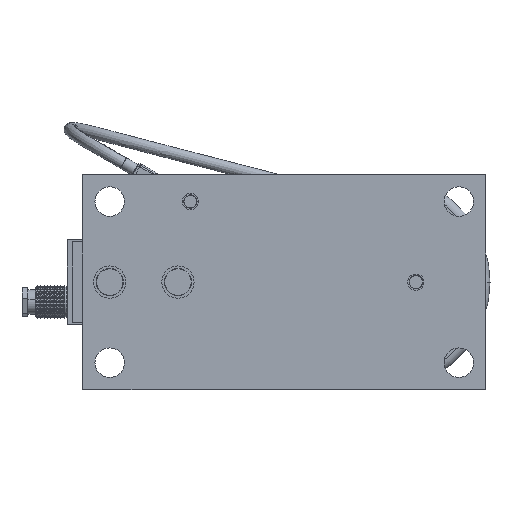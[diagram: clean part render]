
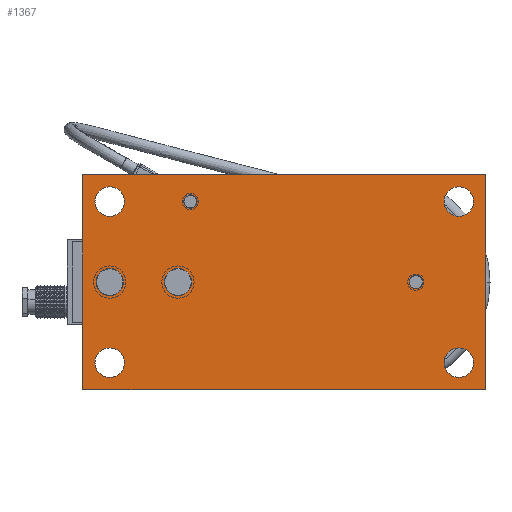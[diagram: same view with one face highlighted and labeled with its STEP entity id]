
A CAD part, front view. The second image highlights one B-rep face of the part: STEP entity #1367.
In plain terms, the highlighted planar face has unit normal (0, -1, 0) as drawn and (0, 0, -1) by its records, which use the part's own axes.
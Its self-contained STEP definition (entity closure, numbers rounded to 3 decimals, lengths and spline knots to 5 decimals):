
#1367=ADVANCED_FACE('0:4733',(#2804,#2805,#2806,#2807,#2808,#2809,#2810,#2811,#2812),#2813,.F.);
#2804=FACE_OUTER_BOUND('',#20180,.T.);
#2805=FACE_BOUND('',#20181,.T.);
#2806=FACE_BOUND('',#20182,.T.);
#2807=FACE_BOUND('',#20183,.T.);
#2808=FACE_BOUND('',#20184,.T.);
#2809=FACE_BOUND('',#20185,.T.);
#2810=FACE_BOUND('',#20186,.T.);
#2811=FACE_BOUND('',#20187,.T.);
#2812=FACE_BOUND('',#20188,.T.);
#2813=PLANE('',#20189);
#20180=EDGE_LOOP('',(#25287,#25288,#25289,#25290));
#20181=EDGE_LOOP('',(#25291,#25292));
#20182=EDGE_LOOP('',(#25293,#25294));
#20183=EDGE_LOOP('',(#25295,#25296));
#20184=EDGE_LOOP('',(#25297,#25298));
#20185=EDGE_LOOP('',(#25299,#25300));
#20186=EDGE_LOOP('',(#25301,#25302));
#20187=EDGE_LOOP('',(#25303,#25304));
#20188=EDGE_LOOP('',(#25305,#25306));
#20189=AXIS2_PLACEMENT_3D('',#25307,#25308,#25309);
#25287=ORIENTED_EDGE('',*,*,#27161,.T.);
#25288=ORIENTED_EDGE('',*,*,#27162,.T.);
#25289=ORIENTED_EDGE('',*,*,#27163,.T.);
#25290=ORIENTED_EDGE('',*,*,#27164,.T.);
#25291=ORIENTED_EDGE('',*,*,#27145,.T.);
#25292=ORIENTED_EDGE('',*,*,#27144,.T.);
#25293=ORIENTED_EDGE('',*,*,#27147,.T.);
#25294=ORIENTED_EDGE('',*,*,#27140,.T.);
#25295=ORIENTED_EDGE('',*,*,#27159,.T.);
#25296=ORIENTED_EDGE('',*,*,#27116,.T.);
#25297=ORIENTED_EDGE('',*,*,#27149,.T.);
#25298=ORIENTED_EDGE('',*,*,#27136,.T.);
#25299=ORIENTED_EDGE('',*,*,#27152,.F.);
#25300=ORIENTED_EDGE('',*,*,#27130,.F.);
#25301=ORIENTED_EDGE('',*,*,#27156,.F.);
#25302=ORIENTED_EDGE('',*,*,#27122,.F.);
#25303=ORIENTED_EDGE('',*,*,#27154,.F.);
#25304=ORIENTED_EDGE('',*,*,#27126,.F.);
#25305=ORIENTED_EDGE('',*,*,#27158,.F.);
#25306=ORIENTED_EDGE('',*,*,#27118,.F.);
#25307=CARTESIAN_POINT('',(0.0,0.0,0.0));
#25308=DIRECTION('',(0.0,0.0,1.0));
#25309=DIRECTION('',(1.0,0.0,0.0));
#27116=EDGE_CURVE('0:4796',#29817,#29821,#29823,.F.);
#27118=EDGE_CURVE('0:4787',#29824,#29827,#29828,.F.);
#27122=EDGE_CURVE('0:4781',#29832,#29835,#29836,.F.);
#27126=EDGE_CURVE('0:4775',#29840,#29843,#29844,.F.);
#27130=EDGE_CURVE('0:4769',#29848,#29851,#29852,.F.);
#27136=EDGE_CURVE('0:4766',#29857,#29861,#29863,.F.);
#27140=EDGE_CURVE('0:4760',#29865,#29869,#29871,.F.);
#27144=EDGE_CURVE('0:4754',#29873,#29877,#29879,.F.);
#27145=EDGE_CURVE('0:4754',#29877,#29873,#29880,.F.);
#27147=EDGE_CURVE('0:4760',#29869,#29865,#29882,.F.);
#27149=EDGE_CURVE('0:4766',#29861,#29857,#29884,.F.);
#27152=EDGE_CURVE('0:4769',#29851,#29848,#29887,.F.);
#27154=EDGE_CURVE('0:4775',#29843,#29840,#29889,.F.);
#27156=EDGE_CURVE('0:4781',#29835,#29832,#29891,.F.);
#27158=EDGE_CURVE('0:4787',#29827,#29824,#29893,.F.);
#27159=EDGE_CURVE('0:4796',#29821,#29817,#29894,.F.);
#27161=EDGE_CURVE('0:4799',#29896,#29897,#29898,.T.);
#27162=EDGE_CURVE('0:4802',#29897,#29899,#29900,.T.);
#27163=EDGE_CURVE('0:4805',#29899,#29901,#29902,.T.);
#27164=EDGE_CURVE('0:4808',#29901,#29896,#29903,.T.);
#29817=VERTEX_POINT('',#244597);
#29821=VERTEX_POINT('',#244602);
#29823=CIRCLE('',#244605,0.0025);
#29824=VERTEX_POINT('',#244606);
#29827=VERTEX_POINT('',#244610);
#29828=CIRCLE('',#244611,0.0055);
#29832=VERTEX_POINT('',#244616);
#29835=VERTEX_POINT('',#244620);
#29836=CIRCLE('',#244621,0.0055);
#29840=VERTEX_POINT('',#244626);
#29843=VERTEX_POINT('',#244630);
#29844=CIRCLE('',#244631,0.0055);
#29848=VERTEX_POINT('',#244636);
#29851=VERTEX_POINT('',#244640);
#29852=CIRCLE('',#244641,0.0055);
#29857=VERTEX_POINT('',#244647);
#29861=VERTEX_POINT('',#244652);
#29863=CIRCLE('',#244655,0.0025);
#29865=VERTEX_POINT('',#244657);
#29869=VERTEX_POINT('',#244662);
#29871=CIRCLE('',#244665,0.0051);
#29873=VERTEX_POINT('',#244667);
#29877=VERTEX_POINT('',#244672);
#29879=CIRCLE('',#244675,0.0051);
#29880=CIRCLE('',#244676,0.0051);
#29882=CIRCLE('',#244678,0.0051);
#29884=CIRCLE('',#244680,0.0025);
#29887=CIRCLE('',#244683,0.0055);
#29889=CIRCLE('',#244685,0.0055);
#29891=CIRCLE('',#244687,0.0055);
#29893=CIRCLE('',#244689,0.0055);
#29894=CIRCLE('',#244690,0.0025);
#29896=VERTEX_POINT('',#244692);
#29897=VERTEX_POINT('',#244693);
#29898=LINE('',#244694,#244695);
#29899=VERTEX_POINT('',#244696);
#29900=LINE('',#244697,#244698);
#29901=VERTEX_POINT('',#244699);
#29902=LINE('',#244700,#244701);
#29903=LINE('',#244702,#244703);
#244597=CARTESIAN_POINT('',(0.0465,0.,0.0));
#244602=CARTESIAN_POINT('',(0.0515,0.,0.0));
#244605=AXIS2_PLACEMENT_3D('',#247467,#247468,#247469);
#244606=CARTESIAN_POINT('',(0.0705,0.03,0.0));
#244610=CARTESIAN_POINT('',(0.0595,0.03,0.0));
#244611=AXIS2_PLACEMENT_3D('',#247471,#247472,#247473);
#244616=CARTESIAN_POINT('',(-0.0595,0.03,0.0));
#244620=CARTESIAN_POINT('',(-0.0705,0.03,0.0));
#244621=AXIS2_PLACEMENT_3D('',#247479,#247480,#247481);
#244626=CARTESIAN_POINT('',(-0.0595,-0.03,0.0));
#244630=CARTESIAN_POINT('',(-0.0705,-0.03,0.0));
#244631=AXIS2_PLACEMENT_3D('',#247487,#247488,#247489);
#244636=CARTESIAN_POINT('',(0.0705,-0.03,0.0));
#244640=CARTESIAN_POINT('',(0.0595,-0.03,0.0));
#244641=AXIS2_PLACEMENT_3D('',#247495,#247496,#247497);
#244647=CARTESIAN_POINT('',(-0.0375,-0.03,0.0));
#244652=CARTESIAN_POINT('',(-0.0325,-0.03,0.0));
#244655=AXIS2_PLACEMENT_3D('',#247507,#247508,#247509);
#244657=CARTESIAN_POINT('',(-0.0701,0.,0.0));
#244662=CARTESIAN_POINT('',(-0.0599,0.,0.0));
#244665=AXIS2_PLACEMENT_3D('',#247515,#247516,#247517);
#244667=CARTESIAN_POINT('',(-0.0447,0.,0.0));
#244672=CARTESIAN_POINT('',(-0.0345,0.,0.0));
#244675=AXIS2_PLACEMENT_3D('',#247523,#247524,#247525);
#244676=AXIS2_PLACEMENT_3D('',#247526,#247527,#247528);
#244678=AXIS2_PLACEMENT_3D('',#247532,#247533,#247534);
#244680=AXIS2_PLACEMENT_3D('',#247538,#247539,#247540);
#244683=AXIS2_PLACEMENT_3D('',#247547,#247548,#247549);
#244685=AXIS2_PLACEMENT_3D('',#247553,#247554,#247555);
#244687=AXIS2_PLACEMENT_3D('',#247559,#247560,#247561);
#244689=AXIS2_PLACEMENT_3D('',#247565,#247566,#247567);
#244690=AXIS2_PLACEMENT_3D('',#247568,#247569,#247570);
#244692=CARTESIAN_POINT('',(-0.075,-0.04,0.0));
#244693=CARTESIAN_POINT('',(-0.075,0.04,0.0));
#244694=CARTESIAN_POINT('',(-0.075,0.0,0.0));
#244695=VECTOR('',#247574,1.0);
#244696=CARTESIAN_POINT('',(0.075,0.04,0.0));
#244697=CARTESIAN_POINT('',(0.0,0.04,0.0));
#244698=VECTOR('',#247575,1.0);
#244699=CARTESIAN_POINT('',(0.075,-0.04,0.0));
#244700=CARTESIAN_POINT('',(0.075,0.0,0.0));
#244701=VECTOR('',#247576,1.0);
#244702=CARTESIAN_POINT('',(0.0,-0.04,0.0));
#244703=VECTOR('',#247577,1.0);
#247467=CARTESIAN_POINT('',(0.049,0.,0.0));
#247468=DIRECTION('',(0.0,0.0,-1.0));
#247469=DIRECTION('',(-1.0,0.0,0.0));
#247471=CARTESIAN_POINT('',(0.065,0.03,0.0));
#247472=DIRECTION('',(0.0,0.0,1.0));
#247473=DIRECTION('',(1.0,0.0,0.0));
#247479=CARTESIAN_POINT('',(-0.065,0.03,0.0));
#247480=DIRECTION('',(0.0,0.0,1.0));
#247481=DIRECTION('',(1.0,0.0,0.0));
#247487=CARTESIAN_POINT('',(-0.065,-0.03,0.0));
#247488=DIRECTION('',(0.0,0.0,1.0));
#247489=DIRECTION('',(1.0,0.0,0.0));
#247495=CARTESIAN_POINT('',(0.065,-0.03,0.0));
#247496=DIRECTION('',(0.0,0.0,1.0));
#247497=DIRECTION('',(1.0,0.0,0.0));
#247507=CARTESIAN_POINT('',(-0.035,-0.03,0.0));
#247508=DIRECTION('',(0.0,0.0,-1.0));
#247509=DIRECTION('',(-1.0,0.0,0.0));
#247515=CARTESIAN_POINT('',(-0.065,0.,0.0));
#247516=DIRECTION('',(0.0,0.0,-1.0));
#247517=DIRECTION('',(-1.0,0.0,0.0));
#247523=CARTESIAN_POINT('',(-0.0396,0.,0.0));
#247524=DIRECTION('',(0.0,0.0,-1.0));
#247525=DIRECTION('',(-1.0,0.0,0.0));
#247526=CARTESIAN_POINT('',(-0.0396,0.,0.0));
#247527=DIRECTION('',(0.0,0.0,-1.0));
#247528=DIRECTION('',(-1.0,0.0,0.0));
#247532=CARTESIAN_POINT('',(-0.065,0.,0.0));
#247533=DIRECTION('',(0.0,0.0,-1.0));
#247534=DIRECTION('',(-1.0,0.0,0.0));
#247538=CARTESIAN_POINT('',(-0.035,-0.03,0.0));
#247539=DIRECTION('',(0.0,0.0,-1.0));
#247540=DIRECTION('',(-1.0,0.0,0.0));
#247547=CARTESIAN_POINT('',(0.065,-0.03,0.0));
#247548=DIRECTION('',(0.0,0.0,1.0));
#247549=DIRECTION('',(1.0,0.0,0.0));
#247553=CARTESIAN_POINT('',(-0.065,-0.03,0.0));
#247554=DIRECTION('',(0.0,0.0,1.0));
#247555=DIRECTION('',(1.0,0.0,0.0));
#247559=CARTESIAN_POINT('',(-0.065,0.03,0.0));
#247560=DIRECTION('',(0.0,0.0,1.0));
#247561=DIRECTION('',(1.0,0.0,0.0));
#247565=CARTESIAN_POINT('',(0.065,0.03,0.0));
#247566=DIRECTION('',(0.0,0.0,1.0));
#247567=DIRECTION('',(1.0,0.0,0.0));
#247568=CARTESIAN_POINT('',(0.049,0.,0.0));
#247569=DIRECTION('',(0.0,0.0,-1.0));
#247570=DIRECTION('',(-1.0,0.0,0.0));
#247574=DIRECTION('',(0.0,1.0,-0.0));
#247575=DIRECTION('',(1.0,0.0,0.0));
#247576=DIRECTION('',(0.0,-1.0,0.0));
#247577=DIRECTION('',(-1.0,0.0,0.0));
